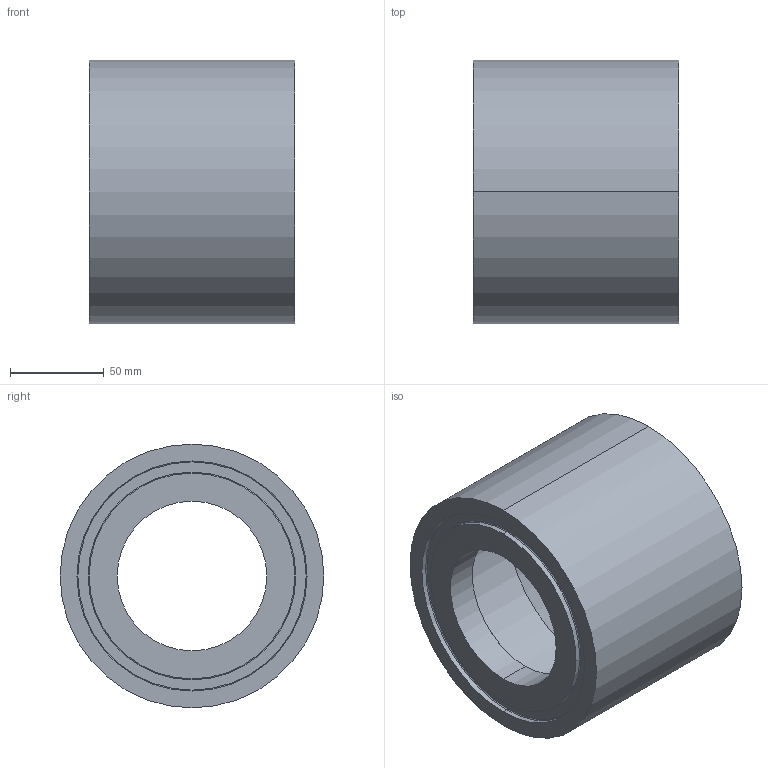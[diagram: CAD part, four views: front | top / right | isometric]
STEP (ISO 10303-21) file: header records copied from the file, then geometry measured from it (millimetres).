
FILE_DESCRIPTION (( 'STEP AP214' ), '1' );
FILE_NAME ('RVZ3139xD18A5A05500_DN 80_DIN-RR-Nut_PS40.STEP', '2009-11-10T13:36:35', ( 'Eckhard Grams' ), ( 'AWP Kälte Klima Armaturen GmbH' ), 'SwSTEP 2.0', 'SolidWorks 2002296', '' );
FILE_SCHEMA (( 'AUTOMOTIVE_DESIGN' ));
Length unit declared in the file: millimetre
Products named in the file (2): RVZ3139xD18A5A05500_DN 80_DIN-RR-Nut_PS40; Geh 31391K18-5034xx4_DN80_PS63_Geh 31391K18-5034554 RR-Nut
Assembly tree (1 placements, depth 2):
  RVZ3139xD18A5A05500_DN 80_DIN-RR-Nut_PS40
    Geh 31391K18-5034xx4_DN80_PS63_Geh 31391K18-5034554 RR-Nut
Bounding box: 110 x 141 x 141 mm (x, y, z)
Volume: 656206 mm3; surface area: 119504.4 mm2
Topology: 1 solids, 1 shells, 51 faces, 102 edges, 62 vertices
Faces by surface type: cylinder 26, torus 12, plane 11, cone 2
Entity records: 1427 total; most frequent: DIRECTION 286, CARTESIAN_POINT 219, ORIENTED_EDGE 204, AXIS2_PLACEMENT_3D 129, EDGE_CURVE 102, CIRCLE 74, EDGE_LOOP 62, VERTEX_POINT 62
